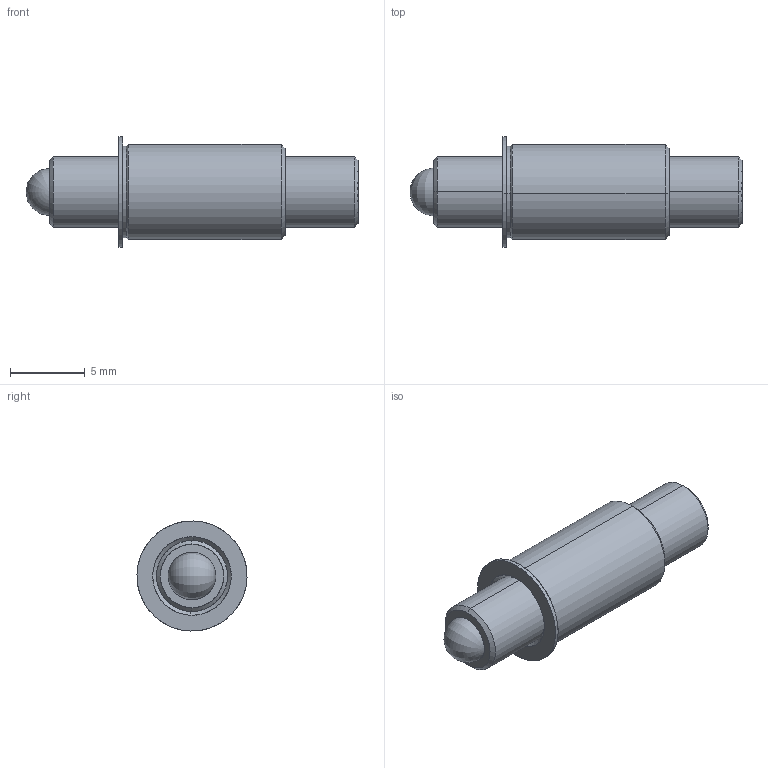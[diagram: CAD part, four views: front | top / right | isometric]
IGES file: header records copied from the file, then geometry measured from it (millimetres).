
Start section: SolidWorks IGES file using analytic representation for surfaces
Global section: file name: C:\Users\workpc\Desktop\KMA Solidworks\TSB187-100-875_437.IGS; native system: SolidWorks 2013; preprocessor: SolidWorks 2013; author: workpc; date: 130313.091910; units: inch
Bounding box: 22.22 x 7.36 x 7.36 mm (x, y, z)
Surface area: 836.9 mm2 (no closed solid volume)
Topology: 0 solids, 0 shells, 39 faces, 460 edges, 458 vertices
Faces by surface type: revolution 26, bspline 13
